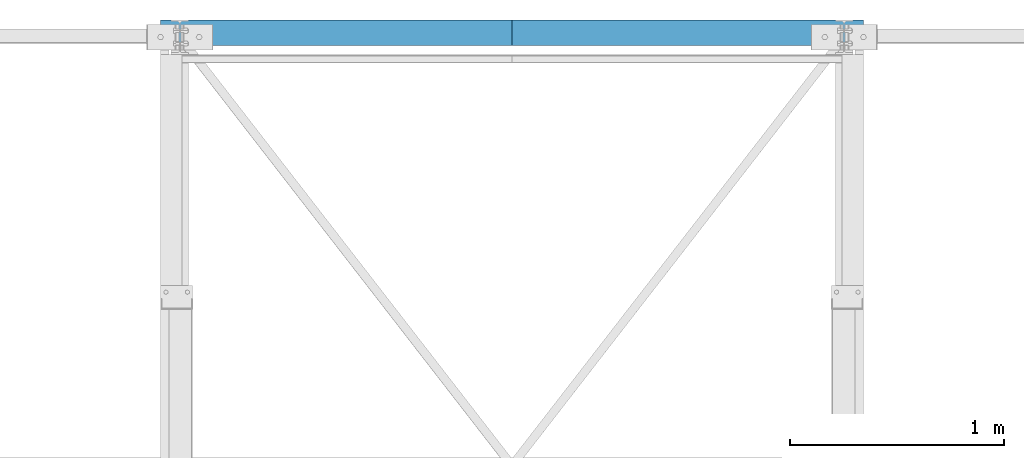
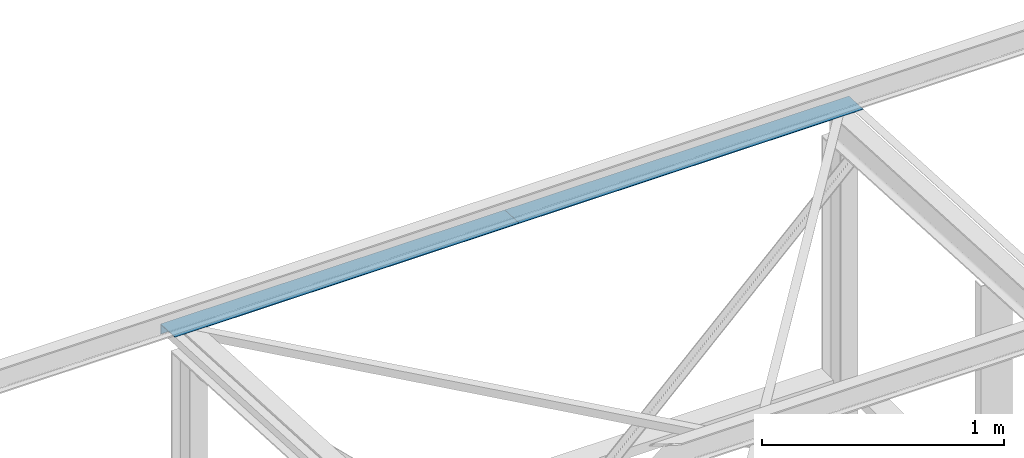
# One storey, part 119 of 123: 2 beams, 2 elements without a shape of their own.
"""IFC2X3 building model written with IfcOpenShell, lengths in millimetres."""

from ifc_helpers import new_model, si_unit, frame, origin_with_axes, place, context, subcontext, project, spatial, faceted_brep, material, type_object, element, aggregate, save


model = new_model("IFC2X3")

# Units and contexts
model_context = context("Model", 3, precision=1e-05, world=origin_with_axes())
body_context = subcontext(model_context, "Body", "Model", "MODEL_VIEW")
ifc_project = project(units=[si_unit("LENGTHUNIT", "METRE", prefix="MILLI"), si_unit("AREAUNIT", "SQUARE_METRE"), si_unit("VOLUMEUNIT", "CUBIC_METRE"), si_unit("MASSUNIT", "GRAM", prefix="KILO"), si_unit("TIMEUNIT", "SECOND"), si_unit("PLANEANGLEUNIT", "RADIAN"), si_unit("SOLIDANGLEUNIT", "STERADIAN"), si_unit("THERMODYNAMICTEMPERATUREUNIT", "DEGREE_CELSIUS"), si_unit("LUMINOUSINTENSITYUNIT", "LUMEN")], contexts=[model_context])

# Site, building, storey
site_placement = place(None, origin_with_axes())
site = spatial("IfcSite", under=ifc_project, at=site_placement, Name="Undefined", CompositionType="ELEMENT")
building_placement = place(site_placement, origin_with_axes())
building = spatial("IfcBuilding", under=site, at=building_placement, Name="Undefined", CompositionType="ELEMENT")
storey_placement = place(building_placement, origin_with_axes())
storey = spatial("IfcBuildingStorey", under=building, at=storey_placement, Name="Undefined", CompositionType="ELEMENT", Elevation=0.0)

# Assembly, beam
assembly_1_placement = place(storey_placement, origin_with_axes())
assembly_1 = element("IfcElementAssembly", 1, at=assembly_1_placement, inside=storey, Name="Steel Assembly", AssemblyPlace="NOTDEFINED", PredefinedType="RIGID_FRAME")
ifc_material = material(Name="STEEL/S235-E24")
beam_type = type_object("IfcBeamType", Name="PL3*1640", PredefinedType="NOTDEFINED")
beam_1_placement = place(assembly_1_placement, frame((31299.9999689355, 29200.0858456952, 2980.58868167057), z_axis=(-1.0, 0.0, 0.0), x_axis=(0.0, 0.998630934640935, -0.0523092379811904)))
beam_1 = element("IfcBeam", 2, at=beam_1_placement, type_object=beam_type, material=ifc_material, Name="FEUILLURE", ObjectType="PL3*1640", context=body_context, shape_type="Brep", body=[
    faceted_brep([(3.71073838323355e-09, -1.5, -820.0), (3.71073838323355e-09, -1.5, 820.0), (-3.70346242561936e-09, 1.49999999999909, 820.0), (-3.70346242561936e-09, 1.49999999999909, -820.0), (117.153026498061, 1.50000028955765, 820.0), (117.153026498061, 1.50000028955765, -820.0), (119.999996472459, -1.4999997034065, -820.0), (119.999996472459, -1.4999997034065, 820.0), (119.619565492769, 48.5884733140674, 820.0), (119.619565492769, 48.5884733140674, -820.0), (122.615458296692, 48.4315456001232, 820.0), (122.615458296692, 48.4315456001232, -820.0)], [[[0, 1, 2, 3]], [[3, 2, 4, 5]], [[1, 0, 6, 7]], [[5, 4, 8, 9]], [[4, 2, 1, 7, 10, 8]], [[7, 6, 11, 10]], [[6, 0, 3, 5, 9, 11]], [[10, 11, 9, 8]]]),
])
aggregate(assembly_1, [beam_1])

assembly_2_placement = place(storey_placement, origin_with_axes())
assembly_2 = element("IfcElementAssembly", 3, at=assembly_2_placement, inside=storey, Name="Steel Assembly", AssemblyPlace="NOTDEFINED", PredefinedType="RIGID_FRAME")
beam_2_placement = place(assembly_2_placement, frame((29659.9999689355, 29200.0858456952, 2980.58868167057), z_axis=(-1.0, 0.0, 0.0), x_axis=(0.0, 0.998630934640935, -0.0523092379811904)))
beam_2 = element("IfcBeam", 4, at=beam_2_placement, type_object=beam_type, material=ifc_material, Name="FEUILLURE", ObjectType="PL3*1640", context=body_context, shape_type="Brep", body=[
    faceted_brep([(3.71073838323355e-09, -1.5, -820.0), (3.71073838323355e-09, -1.5, 820.0), (-3.70346242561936e-09, 1.49999999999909, 820.0), (-3.70346242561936e-09, 1.49999999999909, -820.0), (117.153026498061, 1.50000028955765, 820.0), (117.153026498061, 1.50000028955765, -820.0), (119.999996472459, -1.4999997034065, -820.0), (119.999996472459, -1.4999997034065, 820.0), (119.619565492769, 48.5884733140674, 820.0), (119.619565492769, 48.5884733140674, -820.0), (122.615458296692, 48.4315456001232, 820.0), (122.615458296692, 48.4315456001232, -820.0)], [[[0, 1, 2, 3]], [[3, 2, 4, 5]], [[1, 0, 6, 7]], [[5, 4, 8, 9]], [[4, 2, 1, 7, 10, 8]], [[7, 6, 11, 10]], [[6, 0, 3, 5, 9, 11]], [[10, 11, 9, 8]]]),
])
aggregate(assembly_2, [beam_2])

save(model, "model.ifc")
